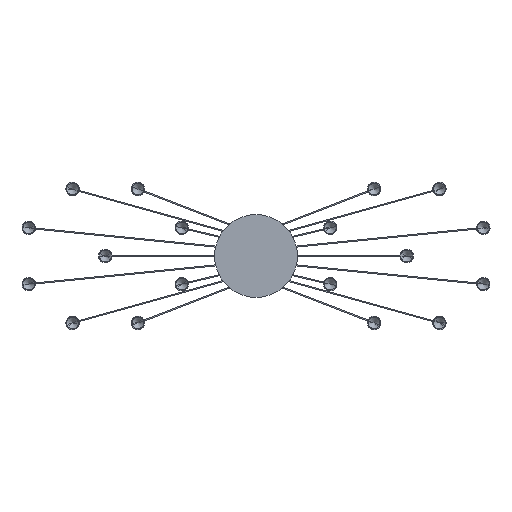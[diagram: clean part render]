
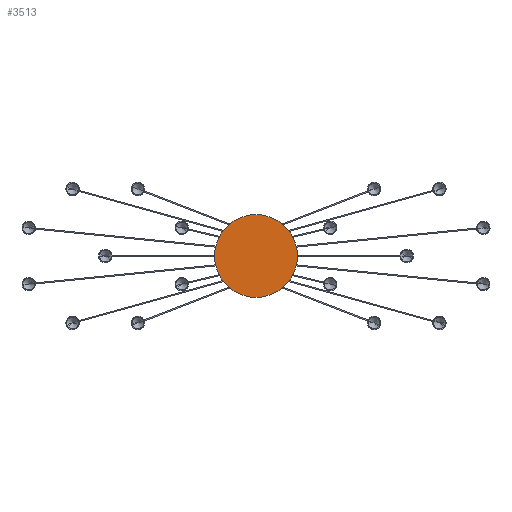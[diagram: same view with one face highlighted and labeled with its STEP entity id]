
A CAD part, front view. The second image highlights one B-rep face of the part: STEP entity #3513.
In plain terms, the highlighted planar face has unit normal (0, -1, 0).
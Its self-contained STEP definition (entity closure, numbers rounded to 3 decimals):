
#52 = EDGE_CURVE ( 'NONE', #2112, #6568, #6785, .T. ) ;
#610 = ORIENTED_EDGE ( 'NONE', *, *, #52, .F. ) ;
#1213 = DIRECTION ( 'NONE',  ( 0., 1., 0. ) ) ;
#1324 = DIRECTION ( 'NONE',  ( 0., 1., 0. ) ) ;
#1448 = DIRECTION ( 'NONE',  ( 0., 1., 0. ) ) ;
#1788 = CIRCLE ( 'NONE', #3523, 155. ) ;
#1834 = CARTESIAN_POINT ( 'NONE',  ( 0., 0., 0. ) ) ;
#1846 = ORIENTED_EDGE ( 'NONE', *, *, #5329, .F. ) ;
#1863 = PLANE ( 'NONE',  #4707 ) ;
#1896 = DIRECTION ( 'NONE',  ( 0., 0., 1. ) ) ;
#2098 = CARTESIAN_POINT ( 'NONE',  ( 0., 0., -155. ) ) ;
#2112 = VERTEX_POINT ( 'NONE', #2098 ) ;
#2911 = DIRECTION ( 'NONE',  ( 0., 0., 1. ) ) ;
#3398 = CARTESIAN_POINT ( 'NONE',  ( 0., 0., 155. ) ) ;
#3513 = ADVANCED_FACE ( 'NONE', ( #5742 ), #1863, .F. ) ;
#3523 = AXIS2_PLACEMENT_3D ( 'NONE', #1834, #1324, #1896 ) ;
#4707 = AXIS2_PLACEMENT_3D ( 'NONE', #5125, #1213, #2911 ) ;
#5125 = CARTESIAN_POINT ( 'NONE',  ( 0., 0., 0. ) ) ;
#5283 = AXIS2_PLACEMENT_3D ( 'NONE', #6264, #1448, #5717 ) ;
#5329 = EDGE_CURVE ( 'NONE', #6568, #2112, #1788, .T. ) ;
#5717 = DIRECTION ( 'NONE',  ( 0., 0., 1. ) ) ;
#5742 = FACE_OUTER_BOUND ( 'NONE', #6379, .T. ) ;
#6264 = CARTESIAN_POINT ( 'NONE',  ( 0., 0., 0. ) ) ;
#6379 = EDGE_LOOP ( 'NONE', ( #610, #1846 ) ) ;
#6568 = VERTEX_POINT ( 'NONE', #3398 ) ;
#6785 = CIRCLE ( 'NONE', #5283, 155. ) ;
